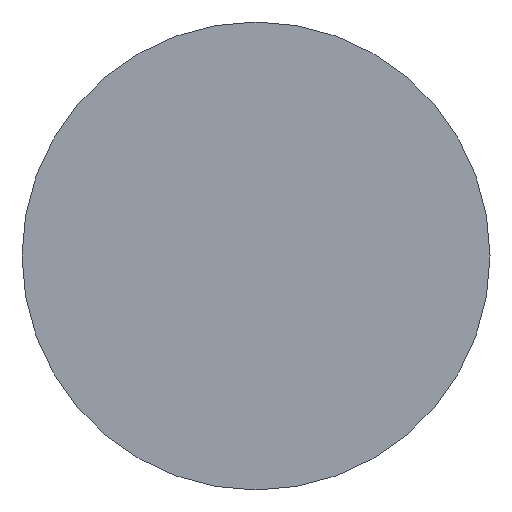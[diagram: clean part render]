
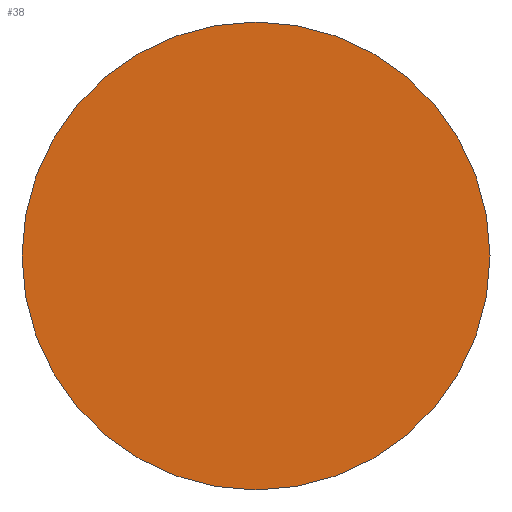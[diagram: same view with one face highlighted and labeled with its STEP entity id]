
A CAD part, top view. The second image highlights one B-rep face of the part: STEP entity #38.
In plain terms, the highlighted planar face has unit normal (0, 0, 1).
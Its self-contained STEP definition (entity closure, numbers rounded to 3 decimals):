
#38=ADVANCED_FACE('',(#79),#80,.F.);
#79=FACE_OUTER_BOUND('',#124,.T.);
#80=PLANE('',#125);
#124=EDGE_LOOP('',(#167));
#125=AXIS2_PLACEMENT_3D('',#168,#169,#170);
#167=ORIENTED_EDGE('',*,*,#216,.F.);
#168=CARTESIAN_POINT('',(0.0,0.0,0.0));
#169=DIRECTION('',(-0.0,0.,-1.0));
#170=DIRECTION('',(0.0,1.0,0.));
#216=EDGE_CURVE('',#237,#237,#238,.T.);
#237=VERTEX_POINT('',#265);
#238=CIRCLE('',#266,33.5);
#265=CARTESIAN_POINT('',(0.0,33.5,0.));
#266=AXIS2_PLACEMENT_3D('',#293,#294,#295);
#293=CARTESIAN_POINT('',(0.0,0.0,0.0));
#294=DIRECTION('',(-0.0,0.,-1.0));
#295=DIRECTION('',(0.0,1.0,0.));
